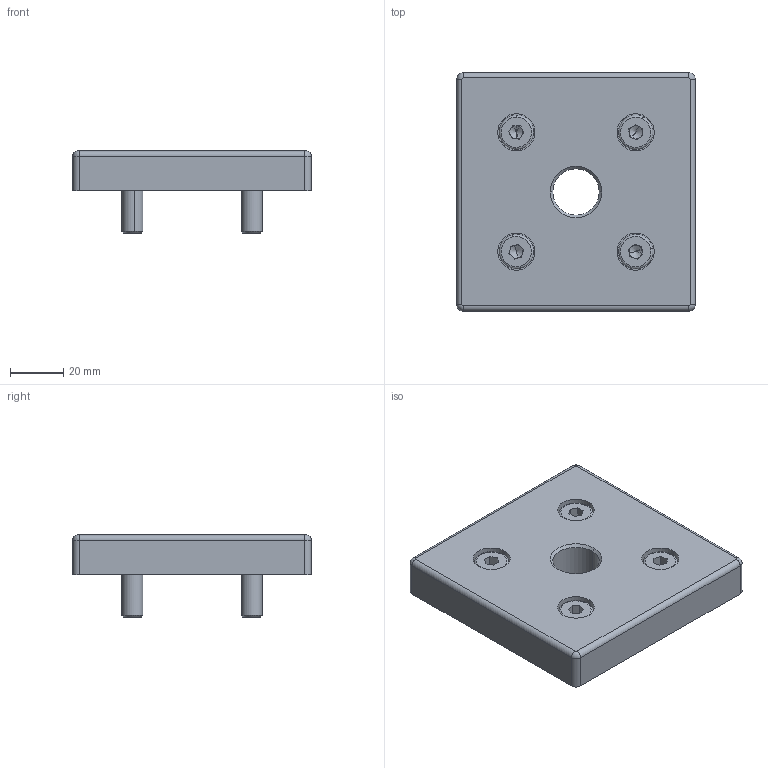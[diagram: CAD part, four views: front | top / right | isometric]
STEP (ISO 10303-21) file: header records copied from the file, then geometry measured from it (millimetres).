
FILE_DESCRIPTION (( 'STEP AP214' ), '1' );
FILE_NAME ('1.5016 Kierrelevy 90x90 M20.STEP', '2025-09-16T07:25:20', ( '' ), ( '' ), 'SwSTEP 2.0', 'SolidWorks 2025', '' );
FILE_SCHEMA (( 'AUTOMOTIVE_DESIGN' ));
Length unit declared in the file: millimetre
Products named in the file (1): 1.5016 Kierrelevy 90x90 M20
Bounding box: 90 x 90 x 31 mm (x, y, z)
Volume: 119157.9 mm3; surface area: 27641 mm2
Topology: 5 solids, 5 shells, 150 faces, 330 edges, 194 vertices
Faces by surface type: plane 70, cylinder 42, torus 20, cone 18
Entity records: 5773 total; most frequent: DIRECTION 778, CARTESIAN_POINT 667, ORIENTED_EDGE 644, EDGE_CURVE 322, AXIS2_PLACEMENT_3D 305, VERTEX_POINT 194, EDGE_LOOP 172, LINE 168
